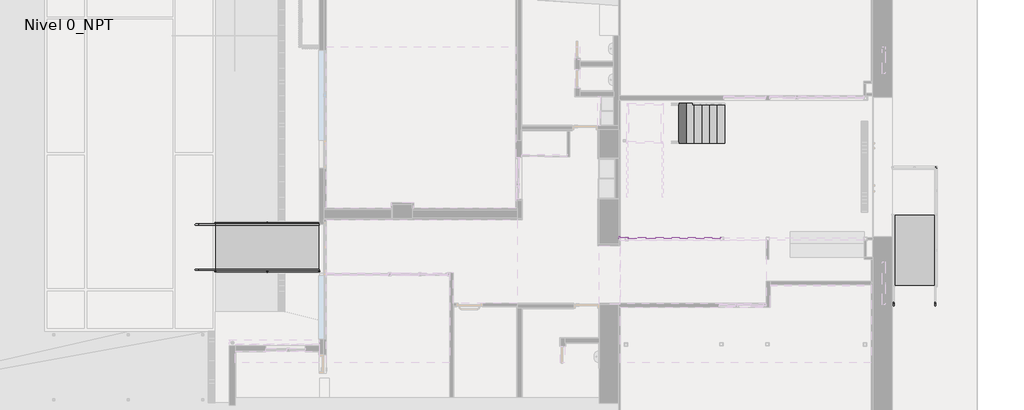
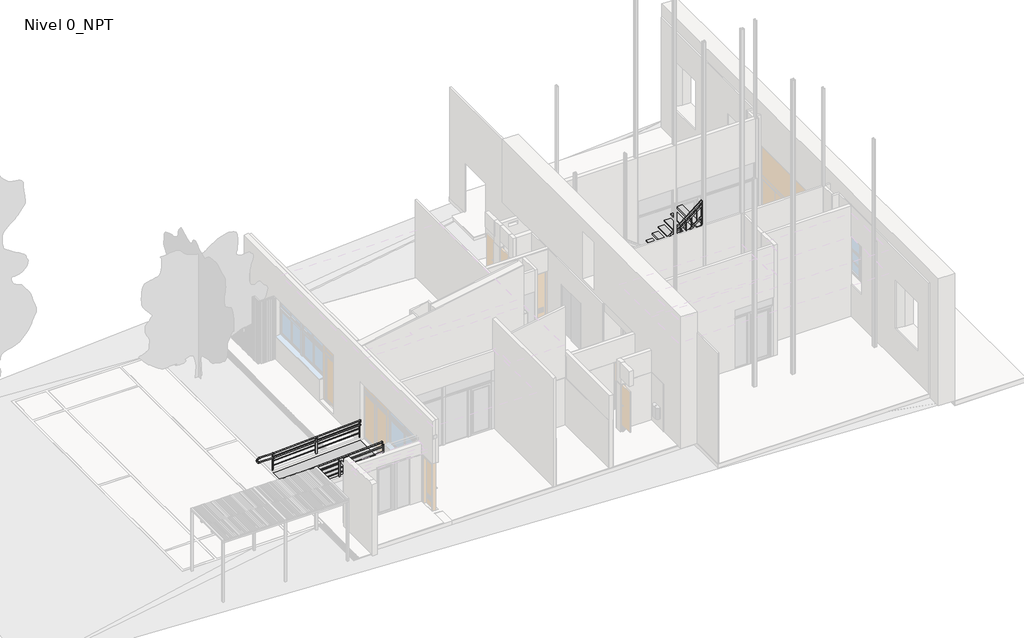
# One storey, part 8 of 10: 9 proxies, 3 railings, 2 ramps, 1 stair flight.
"""IFC4 building model written with IfcOpenShell, lengths in millimetres."""

from ifc_helpers import new_model, si_unit, point, frame, frame_2d, origin, place, context, project, spatial, polyline, circle_curve, ellipse_curve, trimmed, segment, composite_curve, outline, extrude, faceted_brep, transform, mapped, element, save
from ifc_brep_helpers import plane_surface, cylinder_surface, advanced_brep
from components import building_element_proxy_9133cc3a, building_element_proxy_c94f48aa, building_element_proxy_eb7c9d0a, building_element_proxy_42baf547, building_element_proxy_b1144b5f, m_soporte_metal_circular_m_soporte_metal_circular_cf76aa7a, rampa_1_a4d67915, rampa_1_870051f9, stair_flight_c2d89a96

model = new_model("IFC4")

# Units and contexts
model_context = context("Model", 3, world=origin())
ifc_project = project(units=[si_unit("LENGTHUNIT", "METRE", prefix="MILLI")], contexts=[model_context])

# Site, building, storey
site = spatial("IfcSite", under=ifc_project)
building = spatial("IfcBuilding", under=site)
storey = spatial("IfcBuildingStorey", under=building, Name="Nivel 0_NPT", Elevation=0.0)

# Proxies
placement = place(None, origin())
building_element_proxy_shape = building_element_proxy_9133cc3a(model_context)
element("IfcBuildingElementProxy", 1, Name="Terminaciones 1 : Terminaciones 1", ObjectType="Terminaciones 1 : Terminaciones 1", at=placement, inside=storey, context=model_context, shape_type="MappedRepresentation", body=[
    mapped(building_element_proxy_shape, transform((0.0, 0.0, 0.0), x_axis=(1.0, 0.0, 0.0), y_axis=(0.0, 1.0, 0.0), z_axis=(0.0, 0.0, 1.0))),
])
building_element_proxy_2_shape = building_element_proxy_c94f48aa(model_context)
element("IfcBuildingElementProxy", 2, Name="Terminaciones 2 : Terminaciones 1", ObjectType="Terminaciones 2 : Terminaciones 1", at=placement, inside=storey, context=model_context, shape_type="MappedRepresentation", body=[
    mapped(building_element_proxy_2_shape, transform((0.0, 0.0, 0.0), x_axis=(1.0, 0.0, 0.0), y_axis=(0.0, 1.0, 0.0), z_axis=(0.0, 0.0, 1.0))),
])
building_element_proxy_3_shape = building_element_proxy_eb7c9d0a(model_context)
element("IfcBuildingElementProxy", 3, Name="Terminaciones 3 : Terminaciones 1", ObjectType="Terminaciones 3 : Terminaciones 1", at=placement, inside=storey, context=model_context, shape_type="MappedRepresentation", body=[
    mapped(building_element_proxy_3_shape, transform((0.0, 0.0, 0.0), x_axis=(1.0, 0.0, 0.0), y_axis=(0.0, 1.0, 0.0), z_axis=(0.0, 0.0, 1.0))),
])
building_element_proxy_4_shape = building_element_proxy_42baf547(model_context)
element("IfcBuildingElementProxy", 4, Name="Terminaciones 4 : Terminaciones 1", ObjectType="Terminaciones 4 : Terminaciones 1", at=placement, inside=storey, context=model_context, shape_type="MappedRepresentation", body=[
    mapped(building_element_proxy_4_shape, transform((0.0, 0.0, 0.0), x_axis=(1.0, 0.0, 0.0), y_axis=(0.0, 1.0, 0.0), z_axis=(0.0, 0.0, 1.0))),
])
building_element_proxy_5_shape = building_element_proxy_b1144b5f(model_context)
element("IfcBuildingElementProxy", 5, Name="Soportes 1 : Soportes 1", ObjectType="Soportes 1 : Soportes 1", at=placement, inside=storey, context=model_context, shape_type="MappedRepresentation", body=[
    mapped(building_element_proxy_5_shape, transform((0.0, 0.0, 0.0), x_axis=(1.0, 0.0, 0.0), y_axis=(0.0, 1.0, 0.0), z_axis=(0.0, 0.0, 1.0))),
])
m_soporte_metal_circular_m_soporte_metal_circular_shape = m_soporte_metal_circular_m_soporte_metal_circular_cf76aa7a(model_context)
element("IfcBuildingElementProxy", 6, Name="M_Soporte - Metal - Circular : M_Soporte - Metal - Circular", ObjectType="M_Soporte - Metal - Circular : M_Soporte - Metal - Circular", at=placement, inside=storey, context=model_context, shape_type="MappedRepresentation", body=[
    mapped(m_soporte_metal_circular_m_soporte_metal_circular_shape, transform((-6314.5710775, 398.6072273, 764.9788093), x_axis=(-1.0, 0.0, 0.0), y_axis=(0.0, -1.0, 0.0), z_axis=(0.0, 0.0, 1.0))),
])
element("IfcBuildingElementProxy", 7, Name="M_Soporte - Metal - Circular : M_Soporte - Metal - Circular", ObjectType="M_Soporte - Metal - Circular : M_Soporte - Metal - Circular", at=placement, inside=storey, context=model_context, shape_type="MappedRepresentation", body=[
    mapped(m_soporte_metal_circular_m_soporte_metal_circular_shape, transform((-4488.7901532, 398.6072273, 854.8227127), x_axis=(-1.0, 0.0, 0.0), y_axis=(0.0, -1.0, 0.0), z_axis=(0.0, 0.0, 1.0))),
])
element("IfcBuildingElementProxy", 8, Name="M_Soporte - Metal - Circular : M_Soporte - Metal - Circular", ObjectType="M_Soporte - Metal - Circular : M_Soporte - Metal - Circular", at=placement, inside=storey, context=model_context, shape_type="MappedRepresentation", body=[
    mapped(m_soporte_metal_circular_m_soporte_metal_circular_shape, transform((-6314.5710775, 1988.6072273, 764.9788093), x_axis=(1.0, 0.0, 0.0), y_axis=(0.0, 1.0, 0.0), z_axis=(0.0, 0.0, 1.0))),
])
element("IfcBuildingElementProxy", 9, Name="M_Soporte - Metal - Circular : M_Soporte - Metal - Circular", ObjectType="M_Soporte - Metal - Circular : M_Soporte - Metal - Circular", at=placement, inside=storey, context=model_context, shape_type="MappedRepresentation", body=[
    mapped(m_soporte_metal_circular_m_soporte_metal_circular_shape, transform((-4488.7901532, 1988.6072273, 854.8227127), x_axis=(1.0, 0.0, 0.0), y_axis=(0.0, 1.0, 0.0), z_axis=(0.0, 0.0, 1.0))),
])

# Railings
element("IfcRailing", 10, ObjectType="ARQ-BA-IN-Hi-Escalera", at=placement, inside=storey, context=model_context, shape_type="SolidModel", body=[
    faceted_brep([(6085.2126262, 1560.9008809, 4189.6), (6085.2126262, 1560.9008809, 4139.6), (6035.2126262, 1560.9008809, 4139.6), (6035.2126262, 1560.9008809, 4189.6), (6085.2126262, 1546.742606, 4189.6), (6085.2126262, 1546.742606, 4139.6), (6035.2126262, 1496.742606, 4139.6), (6035.2126262, 1496.742606, 4189.6), (7314.6404221, 1546.742606, 4189.6), (7332.3307325, 1546.742606, 4139.6), (7332.3307325, 1496.742606, 4139.6), (7314.6404221, 1496.742606, 4189.6), (9602.8126262, 1546.742606, 6040.4229128), (9602.8126262, 1496.742606, 6040.4229128), (9602.8126262, 1496.742606, 5976.1138359), (9602.8126262, 1546.742606, 5976.1138359)], [[[0, 1, 2, 3]], [[1, 0, 4, 5]], [[2, 1, 5, 6]], [[3, 2, 6, 7]], [[0, 3, 7, 4]], [[5, 4, 8, 9]], [[6, 5, 9, 10]], [[7, 6, 10, 11]], [[4, 7, 11, 8]], [[12, 13, 14, 15]], [[9, 8, 12, 15]], [[10, 9, 15, 14]], [[11, 10, 14, 13]], [[8, 11, 13, 12]]]),
    faceted_brep([(6035.2126262, 1560.9008809, 3989.6), (6085.2126262, 1560.9008809, 3989.6), (6085.2126262, 1560.9008809, 3939.6), (6035.2126262, 1560.9008809, 3939.6), (6035.2126262, 1496.742606, 3989.6), (6035.2126262, 1496.742606, 3939.6), (6085.2126262, 1546.742606, 3939.6), (6085.2126262, 1546.742606, 3989.6)], [[[0, 1, 2, 3]], [[4, 5, 6, 7]], [[1, 0, 4, 7]], [[2, 1, 7, 6]], [[3, 2, 6, 5]], [[0, 3, 5, 4]]]),
    faceted_brep([(6035.2126262, 1496.742606, 3989.6), (6085.2126262, 1546.742606, 3989.6), (6085.2126262, 1546.742606, 3939.6), (6035.2126262, 1496.742606, 3939.6), (7314.6404221, 1496.742606, 3989.6), (7314.6404221, 1546.742606, 3989.6), (7332.3307325, 1546.742606, 3939.6), (7332.3307325, 1496.742606, 3939.6), (9602.8126262, 1496.742606, 5840.4229128), (9602.8126262, 1496.742606, 5776.1138359), (9602.8126262, 1546.742606, 5776.1138359), (9602.8126262, 1546.742606, 5840.4229128)], [[[0, 1, 2, 3]], [[1, 0, 4, 5]], [[2, 1, 5, 6]], [[3, 2, 6, 7]], [[0, 3, 7, 4]], [[8, 9, 10, 11]], [[5, 4, 8, 11]], [[6, 5, 11, 10]], [[7, 6, 10, 9]], [[4, 7, 9, 8]]]),
    faceted_brep([(6035.2126262, 1560.9008809, 3489.6), (6085.2126262, 1560.9008809, 3489.6), (6085.2126262, 1560.9008809, 3439.6), (6035.2126262, 1560.9008809, 3439.6), (6035.2126262, 1496.742606, 3489.6), (6035.2126262, 1496.742606, 3439.6), (6085.2126262, 1546.742606, 3439.6), (6085.2126262, 1546.742606, 3489.6)], [[[0, 1, 2, 3]], [[4, 5, 6, 7]], [[1, 0, 4, 7]], [[2, 1, 7, 6]], [[3, 2, 6, 5]], [[0, 3, 5, 4]]]),
    faceted_brep([(6035.2126262, 1496.742606, 3489.6), (6085.2126262, 1546.742606, 3489.6), (6085.2126262, 1546.742606, 3439.6), (6035.2126262, 1496.742606, 3439.6), (7314.6404221, 1496.742606, 3489.6), (7314.6404221, 1546.742606, 3489.6), (7332.3307325, 1546.742606, 3439.6), (7332.3307325, 1496.742606, 3439.6), (9602.8126262, 1496.742606, 5340.4229128), (9602.8126262, 1496.742606, 5276.1138359), (9602.8126262, 1546.742606, 5276.1138359), (9602.8126262, 1546.742606, 5340.4229128)], [[[0, 1, 2, 3]], [[1, 0, 4, 5]], [[2, 1, 5, 6]], [[3, 2, 6, 7]], [[0, 3, 7, 4]], [[8, 9, 10, 11]], [[5, 4, 8, 11]], [[6, 5, 11, 10]], [[7, 6, 10, 9]], [[4, 7, 9, 8]]]),
    advanced_brep(
    [(9381.4001262, 1514.242606, 5611.3300423), (9381.4001262, 1514.242606, 5161.3300423), (9381.4001262, 1529.242606, 5161.3300423), (9381.4001262, 1529.242606, 5611.3300423)],
    [
        (0, 1),
        (1, 2, ellipse_curve(frame((9381.4001262, 1521.742606, 5161.3300423), z_axis=(-0.6288888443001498, 0.0, 0.7774952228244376), x_axis=(0.7774952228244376, 0.0, 0.6288888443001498)), 9.6463615, 7.5)),
        (2, 3),
        (3, 0, ellipse_curve(frame((9381.4001262, 1521.742606, 5611.3300423), z_axis=(0.6288888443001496, 0.0, -0.777495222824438), x_axis=(0.7774952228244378, 0.0, 0.6288888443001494)), 9.6463615, 7.5)),
        (0, 3, ellipse_curve(frame((9381.4001262, 1521.742606, 5611.3300423), z_axis=(0.6288888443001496, 0.0, -0.777495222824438), x_axis=(0.7774952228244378, 0.0, 0.6288888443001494)), 9.6463615, 7.5)),
        (2, 1, ellipse_curve(frame((9381.4001262, 1521.742606, 5161.3300423), z_axis=(-0.6288888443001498, 0.0, 0.7774952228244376), x_axis=(0.7774952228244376, 0.0, 0.6288888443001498)), 9.6463615, 7.5)),
    ],
    [
        cylinder_surface(frame((9381.4001262, 1521.742606, 5061.3300423), z_axis=(0.0, 0.0, 1.0), x_axis=(0.0, 1.0, 0.0)), 7.5),
        plane_surface(frame((9396.4001262, 1536.742606, 5623.4630206), z_axis=(-0.6288888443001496, 0.0, 0.777495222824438), x_axis=(0.0, -1.0, 0.0))),
        plane_surface(frame((9366.4001262, 1536.742606, 5149.197064), z_axis=(0.6288888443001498, 0.0, -0.7774952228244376), x_axis=(0.0, -1.0, 0.0))),
    ],
    [
        (0, [[1, 2, 3, 4]]),
        (0, [[-1, 5, -3, 6]]),
        (1, [[-4, -5]]),
        (2, [[-2, -6]]),
    ],
),
    advanced_brep(
    [(9159.9876262, 1514.242606, 5432.2371718), (9159.9876262, 1514.242606, 4982.2371718), (9159.9876262, 1529.242606, 4982.2371718), (9159.9876262, 1529.242606, 5432.2371718)],
    [
        (0, 1),
        (1, 2, ellipse_curve(frame((9159.9876262, 1521.742606, 4982.2371718), z_axis=(-0.6288888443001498, 0.0, 0.7774952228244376), x_axis=(0.7774952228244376, 0.0, 0.6288888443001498)), 9.6463615, 7.5)),
        (2, 3),
        (3, 0, ellipse_curve(frame((9159.9876262, 1521.742606, 5432.2371718), z_axis=(0.6288888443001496, 0.0, -0.777495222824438), x_axis=(0.7774952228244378, 0.0, 0.6288888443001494)), 9.6463615, 7.5)),
        (0, 3, ellipse_curve(frame((9159.9876262, 1521.742606, 5432.2371718), z_axis=(0.6288888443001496, 0.0, -0.777495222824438), x_axis=(0.7774952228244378, 0.0, 0.6288888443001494)), 9.6463615, 7.5)),
        (2, 1, ellipse_curve(frame((9159.9876262, 1521.742606, 4982.2371718), z_axis=(-0.6288888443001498, 0.0, 0.7774952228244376), x_axis=(0.7774952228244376, 0.0, 0.6288888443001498)), 9.6463615, 7.5)),
    ],
    [
        cylinder_surface(frame((9159.9876262, 1521.742606, 4882.2371718), z_axis=(0.0, 0.0, 1.0), x_axis=(0.0, 1.0, 0.0)), 7.5),
        plane_surface(frame((9174.9876262, 1536.742606, 5444.3701501), z_axis=(-0.6288888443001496, 0.0, 0.777495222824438), x_axis=(0.0, -1.0, 0.0))),
        plane_surface(frame((9144.9876262, 1536.742606, 4970.1041935), z_axis=(0.6288888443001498, 0.0, -0.7774952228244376), x_axis=(0.0, -1.0, 0.0))),
    ],
    [
        (0, [[1, 2, 3, 4]]),
        (0, [[-1, 5, -3, 6]]),
        (1, [[-4, -5]]),
        (2, [[-2, -6]]),
    ],
),
    advanced_brep(
    [(8938.5751262, 1514.242606, 5253.1443013), (8938.5751262, 1514.242606, 4803.1443013), (8938.5751262, 1529.242606, 4803.1443013), (8938.5751262, 1529.242606, 5253.1443013)],
    [
        (0, 1),
        (1, 2, ellipse_curve(frame((8938.5751262, 1521.742606, 4803.1443013), z_axis=(-0.6288888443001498, 0.0, 0.7774952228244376), x_axis=(0.7774952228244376, 0.0, 0.6288888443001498)), 9.6463615, 7.5)),
        (2, 3),
        (3, 0, ellipse_curve(frame((8938.5751262, 1521.742606, 5253.1443013), z_axis=(0.6288888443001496, 0.0, -0.777495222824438), x_axis=(0.7774952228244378, 0.0, 0.6288888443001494)), 9.6463615, 7.5)),
        (0, 3, ellipse_curve(frame((8938.5751262, 1521.742606, 5253.1443013), z_axis=(0.6288888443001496, 0.0, -0.777495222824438), x_axis=(0.7774952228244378, 0.0, 0.6288888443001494)), 9.6463615, 7.5)),
        (2, 1, ellipse_curve(frame((8938.5751262, 1521.742606, 4803.1443013), z_axis=(-0.6288888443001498, 0.0, 0.7774952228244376), x_axis=(0.7774952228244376, 0.0, 0.6288888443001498)), 9.6463615, 7.5)),
    ],
    [
        cylinder_surface(frame((8938.5751262, 1521.742606, 4703.1443013), z_axis=(0.0, 0.0, 1.0), x_axis=(0.0, 1.0, 0.0)), 7.5),
        plane_surface(frame((8953.5751262, 1536.742606, 5265.2772796), z_axis=(-0.6288888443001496, 0.0, 0.777495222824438), x_axis=(0.0, -1.0, 0.0))),
        plane_surface(frame((8923.5751262, 1536.742606, 4791.011323), z_axis=(0.6288888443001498, 0.0, -0.7774952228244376), x_axis=(0.0, -1.0, 0.0))),
    ],
    [
        (0, [[1, 2, 3, 4]]),
        (0, [[-1, 5, -3, 6]]),
        (1, [[-4, -5]]),
        (2, [[-2, -6]]),
    ],
),
    advanced_brep(
    [(8717.1626262, 1514.242606, 5074.0514308), (8717.1626262, 1514.242606, 4624.0514308), (8717.1626262, 1529.242606, 4624.0514308), (8717.1626262, 1529.242606, 5074.0514308)],
    [
        (0, 1),
        (1, 2, ellipse_curve(frame((8717.1626262, 1521.742606, 4624.0514308), z_axis=(-0.6288888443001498, 0.0, 0.7774952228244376), x_axis=(0.7774952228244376, 0.0, 0.6288888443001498)), 9.6463615, 7.5)),
        (2, 3),
        (3, 0, ellipse_curve(frame((8717.1626262, 1521.742606, 5074.0514308), z_axis=(0.6288888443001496, 0.0, -0.777495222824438), x_axis=(0.7774952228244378, 0.0, 0.6288888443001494)), 9.6463615, 7.5)),
        (0, 3, ellipse_curve(frame((8717.1626262, 1521.742606, 5074.0514308), z_axis=(0.6288888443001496, 0.0, -0.777495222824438), x_axis=(0.7774952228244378, 0.0, 0.6288888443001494)), 9.6463615, 7.5)),
        (2, 1, ellipse_curve(frame((8717.1626262, 1521.742606, 4624.0514308), z_axis=(-0.6288888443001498, 0.0, 0.7774952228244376), x_axis=(0.7774952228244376, 0.0, 0.6288888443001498)), 9.6463615, 7.5)),
    ],
    [
        cylinder_surface(frame((8717.1626262, 1521.742606, 4524.0514308), z_axis=(0.0, 0.0, 1.0), x_axis=(0.0, 1.0, 0.0)), 7.5),
        plane_surface(frame((8732.1626262, 1536.742606, 5086.1844091), z_axis=(-0.6288888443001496, 0.0, 0.777495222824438), x_axis=(0.0, -1.0, 0.0))),
        plane_surface(frame((8702.1626262, 1536.742606, 4611.9184525), z_axis=(0.6288888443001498, 0.0, -0.7774952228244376), x_axis=(0.0, -1.0, 0.0))),
    ],
    [
        (0, [[1, 2, 3, 4]]),
        (0, [[-1, 5, -3, 6]]),
        (1, [[-4, -5]]),
        (2, [[-2, -6]]),
    ],
),
    advanced_brep(
    [(8495.7501262, 1514.242606, 4894.9585604), (8495.7501262, 1514.242606, 4444.9585604), (8495.7501262, 1529.242606, 4444.9585604), (8495.7501262, 1529.242606, 4894.9585604)],
    [
        (0, 1),
        (1, 2, ellipse_curve(frame((8495.7501262, 1521.742606, 4444.9585604), z_axis=(-0.6288888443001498, 0.0, 0.7774952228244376), x_axis=(0.7774952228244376, 0.0, 0.6288888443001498)), 9.6463615, 7.5)),
        (2, 3),
        (3, 0, ellipse_curve(frame((8495.7501262, 1521.742606, 4894.9585604), z_axis=(0.6288888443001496, 0.0, -0.777495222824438), x_axis=(0.7774952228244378, 0.0, 0.6288888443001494)), 9.6463615, 7.5)),
        (0, 3, ellipse_curve(frame((8495.7501262, 1521.742606, 4894.9585604), z_axis=(0.6288888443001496, 0.0, -0.777495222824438), x_axis=(0.7774952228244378, 0.0, 0.6288888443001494)), 9.6463615, 7.5)),
        (2, 1, ellipse_curve(frame((8495.7501262, 1521.742606, 4444.9585604), z_axis=(-0.6288888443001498, 0.0, 0.7774952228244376), x_axis=(0.7774952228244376, 0.0, 0.6288888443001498)), 9.6463615, 7.5)),
    ],
    [
        cylinder_surface(frame((8495.7501262, 1521.742606, 4344.9585604), z_axis=(0.0, 0.0, 1.0), x_axis=(0.0, 1.0, 0.0)), 7.5),
        plane_surface(frame((8510.7501262, 1536.742606, 4907.0915387), z_axis=(-0.6288888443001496, 0.0, 0.777495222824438), x_axis=(0.0, -1.0, 0.0))),
        plane_surface(frame((8480.7501262, 1536.742606, 4432.8255821), z_axis=(0.6288888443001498, 0.0, -0.7774952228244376), x_axis=(0.0, -1.0, 0.0))),
    ],
    [
        (0, [[1, 2, 3, 4]]),
        (0, [[-1, 5, -3, 6]]),
        (1, [[-4, -5]]),
        (2, [[-2, -6]]),
    ],
),
    advanced_brep(
    [(8274.3376262, 1514.242606, 4715.8656899), (8274.3376262, 1514.242606, 4265.8656899), (8274.3376262, 1529.242606, 4265.8656899), (8274.3376262, 1529.242606, 4715.8656899)],
    [
        (0, 1),
        (1, 2, ellipse_curve(frame((8274.3376262, 1521.742606, 4265.8656899), z_axis=(-0.6288888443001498, 0.0, 0.7774952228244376), x_axis=(0.7774952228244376, 0.0, 0.6288888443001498)), 9.6463615, 7.5)),
        (2, 3),
        (3, 0, ellipse_curve(frame((8274.3376262, 1521.742606, 4715.8656899), z_axis=(0.6288888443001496, 0.0, -0.777495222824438), x_axis=(0.7774952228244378, 0.0, 0.6288888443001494)), 9.6463615, 7.5)),
        (0, 3, ellipse_curve(frame((8274.3376262, 1521.742606, 4715.8656899), z_axis=(0.6288888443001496, 0.0, -0.777495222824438), x_axis=(0.7774952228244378, 0.0, 0.6288888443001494)), 9.6463615, 7.5)),
        (2, 1, ellipse_curve(frame((8274.3376262, 1521.742606, 4265.8656899), z_axis=(-0.6288888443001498, 0.0, 0.7774952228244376), x_axis=(0.7774952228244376, 0.0, 0.6288888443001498)), 9.6463615, 7.5)),
    ],
    [
        cylinder_surface(frame((8274.3376262, 1521.742606, 4165.8656899), z_axis=(0.0, 0.0, 1.0), x_axis=(0.0, 1.0, 0.0)), 7.5),
        plane_surface(frame((8289.3376262, 1536.742606, 4727.9986682), z_axis=(-0.6288888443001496, 0.0, 0.777495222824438), x_axis=(0.0, -1.0, 0.0))),
        plane_surface(frame((8259.3376262, 1536.742606, 4253.7327116), z_axis=(0.6288888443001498, 0.0, -0.7774952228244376), x_axis=(0.0, -1.0, 0.0))),
    ],
    [
        (0, [[1, 2, 3, 4]]),
        (0, [[-1, 5, -3, 6]]),
        (1, [[-4, -5]]),
        (2, [[-2, -6]]),
    ],
),
    advanced_brep(
    [(8052.9251262, 1514.242606, 4536.7728194), (8052.9251262, 1514.242606, 4086.7728194), (8052.9251262, 1529.242606, 4086.7728194), (8052.9251262, 1529.242606, 4536.7728194)],
    [
        (0, 1),
        (1, 2, ellipse_curve(frame((8052.9251262, 1521.742606, 4086.7728194), z_axis=(-0.6288888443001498, 0.0, 0.7774952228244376), x_axis=(0.7774952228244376, 0.0, 0.6288888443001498)), 9.6463615, 7.5)),
        (2, 3),
        (3, 0, ellipse_curve(frame((8052.9251262, 1521.742606, 4536.7728194), z_axis=(0.6288888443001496, 0.0, -0.777495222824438), x_axis=(0.7774952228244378, 0.0, 0.6288888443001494)), 9.6463615, 7.5)),
        (0, 3, ellipse_curve(frame((8052.9251262, 1521.742606, 4536.7728194), z_axis=(0.6288888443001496, 0.0, -0.777495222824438), x_axis=(0.7774952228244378, 0.0, 0.6288888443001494)), 9.6463615, 7.5)),
        (2, 1, ellipse_curve(frame((8052.9251262, 1521.742606, 4086.7728194), z_axis=(-0.6288888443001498, 0.0, 0.7774952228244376), x_axis=(0.7774952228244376, 0.0, 0.6288888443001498)), 9.6463615, 7.5)),
    ],
    [
        cylinder_surface(frame((8052.9251262, 1521.742606, 3986.7728194), z_axis=(0.0, 0.0, 1.0), x_axis=(0.0, 1.0, 0.0)), 7.5),
        plane_surface(frame((8067.9251262, 1536.742606, 4548.9057977), z_axis=(-0.6288888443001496, 0.0, 0.777495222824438), x_axis=(0.0, -1.0, 0.0))),
        plane_surface(frame((8037.9251262, 1536.742606, 4074.6398411), z_axis=(0.6288888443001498, 0.0, -0.7774952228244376), x_axis=(0.0, -1.0, 0.0))),
    ],
    [
        (0, [[1, 2, 3, 4]]),
        (0, [[-1, 5, -3, 6]]),
        (1, [[-4, -5]]),
        (2, [[-2, -6]]),
    ],
),
    advanced_brep(
    [(7831.5126262, 1514.242606, 4357.6799489), (7831.5126262, 1514.242606, 3907.6799489), (7831.5126262, 1529.242606, 3907.6799489), (7831.5126262, 1529.242606, 4357.6799489)],
    [
        (0, 1),
        (1, 2, ellipse_curve(frame((7831.5126262, 1521.742606, 3907.6799489), z_axis=(-0.6288888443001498, 0.0, 0.7774952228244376), x_axis=(0.7774952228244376, 0.0, 0.6288888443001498)), 9.6463615, 7.5)),
        (2, 3),
        (3, 0, ellipse_curve(frame((7831.5126262, 1521.742606, 4357.6799489), z_axis=(0.6288888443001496, 0.0, -0.777495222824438), x_axis=(0.7774952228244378, 0.0, 0.6288888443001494)), 9.6463615, 7.5)),
        (0, 3, ellipse_curve(frame((7831.5126262, 1521.742606, 4357.6799489), z_axis=(0.6288888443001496, 0.0, -0.777495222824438), x_axis=(0.7774952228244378, 0.0, 0.6288888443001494)), 9.6463615, 7.5)),
        (2, 1, ellipse_curve(frame((7831.5126262, 1521.742606, 3907.6799489), z_axis=(-0.6288888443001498, 0.0, 0.7774952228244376), x_axis=(0.7774952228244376, 0.0, 0.6288888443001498)), 9.6463615, 7.5)),
    ],
    [
        cylinder_surface(frame((7831.5126262, 1521.742606, 3807.6799489), z_axis=(0.0, 0.0, 1.0), x_axis=(0.0, 1.0, 0.0)), 7.5),
        plane_surface(frame((7846.5126262, 1536.742606, 4369.8129272), z_axis=(-0.6288888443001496, 0.0, 0.777495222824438), x_axis=(0.0, -1.0, 0.0))),
        plane_surface(frame((7816.5126262, 1536.742606, 3895.5469706), z_axis=(0.6288888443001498, 0.0, -0.7774952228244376), x_axis=(0.0, -1.0, 0.0))),
    ],
    [
        (0, [[1, 2, 3, 4]]),
        (0, [[-1, 5, -3, 6]]),
        (1, [[-4, -5]]),
        (2, [[-2, -6]]),
    ],
),
    advanced_brep(
    [(7831.5126262, 1501.742606, 4543.3708721), (7831.5126262, 1501.742606, 4407.6799489), (7831.5126262, 1541.742606, 4407.6799489), (7831.5126262, 1541.742606, 4543.3708721)],
    [
        (0, 1),
        (1, 2, ellipse_curve(frame((7831.5126262, 1521.742606, 4407.6799489), z_axis=(-0.62888884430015, 0.0, 0.7774952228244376), x_axis=(0.7774952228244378, 0.0, 0.6288888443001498)), 25.7236307, 20.0)),
        (2, 3),
        (3, 0, ellipse_curve(frame((7831.5126262, 1521.742606, 4543.3708721), z_axis=(0.6288888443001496, 0.0, -0.7774952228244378), x_axis=(0.7774952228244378, 0.0, 0.6288888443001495)), 25.7236307, 20.0)),
        (0, 3, ellipse_curve(frame((7831.5126262, 1521.742606, 4543.3708721), z_axis=(0.6288888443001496, 0.0, -0.7774952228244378), x_axis=(0.7774952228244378, 0.0, 0.6288888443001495)), 25.7236307, 20.0)),
        (2, 1, ellipse_curve(frame((7831.5126262, 1521.742606, 4407.6799489), z_axis=(-0.62888884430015, 0.0, 0.7774952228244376), x_axis=(0.7774952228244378, 0.0, 0.6288888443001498)), 25.7236307, 20.0)),
    ],
    [
        cylinder_surface(frame((7831.5126262, 1521.742606, 4307.6799489), z_axis=(0.0, 0.0, 1.0), x_axis=(0.0, 1.0, 0.0)), 20.0),
        plane_surface(frame((7871.5126262, 1561.742606, 4575.7254809), z_axis=(-0.6288888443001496, 0.0, 0.7774952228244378), x_axis=(0.0, -1.0, 0.0))),
        plane_surface(frame((7791.5126262, 1561.742606, 4375.3253401), z_axis=(0.62888884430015, 0.0, -0.7774952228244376), x_axis=(0.0, -1.0, 0.0))),
    ],
    [
        (0, [[1, 2, 3, 4]]),
        (0, [[-1, 5, -3, 6]]),
        (1, [[-4, -5]]),
        (2, [[-2, -6]]),
    ],
),
    advanced_brep(
    [(7610.1001262, 1514.242606, 4178.5870785), (7610.1001262, 1514.242606, 3728.5870785), (7610.1001262, 1529.242606, 3728.5870785), (7610.1001262, 1529.242606, 4178.5870785)],
    [
        (0, 1),
        (1, 2, ellipse_curve(frame((7610.1001262, 1521.742606, 3728.5870785), z_axis=(-0.6288888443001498, 0.0, 0.7774952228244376), x_axis=(0.7774952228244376, 0.0, 0.6288888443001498)), 9.6463615, 7.5)),
        (2, 3),
        (3, 0, ellipse_curve(frame((7610.1001262, 1521.742606, 4178.5870785), z_axis=(0.6288888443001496, 0.0, -0.777495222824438), x_axis=(0.7774952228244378, 0.0, 0.6288888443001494)), 9.6463615, 7.5)),
        (0, 3, ellipse_curve(frame((7610.1001262, 1521.742606, 4178.5870785), z_axis=(0.6288888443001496, 0.0, -0.777495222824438), x_axis=(0.7774952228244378, 0.0, 0.6288888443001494)), 9.6463615, 7.5)),
        (2, 1, ellipse_curve(frame((7610.1001262, 1521.742606, 3728.5870785), z_axis=(-0.6288888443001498, 0.0, 0.7774952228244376), x_axis=(0.7774952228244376, 0.0, 0.6288888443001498)), 9.6463615, 7.5)),
    ],
    [
        cylinder_surface(frame((7610.1001262, 1521.742606, 3628.5870785), z_axis=(0.0, 0.0, 1.0), x_axis=(0.0, 1.0, 0.0)), 7.5),
        plane_surface(frame((7625.1001262, 1536.742606, 4190.7200567), z_axis=(-0.6288888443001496, 0.0, 0.777495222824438), x_axis=(0.0, -1.0, 0.0))),
        plane_surface(frame((7595.1001262, 1536.742606, 3716.4541002), z_axis=(0.6288888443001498, 0.0, -0.7774952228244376), x_axis=(0.0, -1.0, 0.0))),
    ],
    [
        (0, [[1, 2, 3, 4]]),
        (0, [[-1, 5, -3, 6]]),
        (1, [[-4, -5]]),
        (2, [[-2, -6]]),
    ],
),
    advanced_brep(
    [(7388.6876262, 1514.242606, 3999.494208), (7388.6876262, 1514.242606, 3549.494208), (7388.6876262, 1529.242606, 3549.494208), (7388.6876262, 1529.242606, 3999.494208)],
    [
        (0, 1),
        (1, 2, ellipse_curve(frame((7388.6876262, 1521.742606, 3549.494208), z_axis=(-0.6288888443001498, 0.0, 0.7774952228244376), x_axis=(0.7774952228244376, 0.0, 0.6288888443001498)), 9.6463615, 7.5)),
        (2, 3),
        (3, 0, ellipse_curve(frame((7388.6876262, 1521.742606, 3999.494208), z_axis=(0.6288888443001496, 0.0, -0.777495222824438), x_axis=(0.7774952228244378, 0.0, 0.6288888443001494)), 9.6463615, 7.5)),
        (0, 3, ellipse_curve(frame((7388.6876262, 1521.742606, 3999.494208), z_axis=(0.6288888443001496, 0.0, -0.777495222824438), x_axis=(0.7774952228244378, 0.0, 0.6288888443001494)), 9.6463615, 7.5)),
        (2, 1, ellipse_curve(frame((7388.6876262, 1521.742606, 3549.494208), z_axis=(-0.6288888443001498, 0.0, 0.7774952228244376), x_axis=(0.7774952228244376, 0.0, 0.6288888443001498)), 9.6463615, 7.5)),
    ],
    [
        cylinder_surface(frame((7388.6876262, 1521.742606, 3449.494208), z_axis=(0.0, 0.0, 1.0), x_axis=(0.0, 1.0, 0.0)), 7.5),
        plane_surface(frame((7403.6876262, 1536.742606, 4011.6271863), z_axis=(-0.6288888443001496, 0.0, 0.777495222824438), x_axis=(0.0, -1.0, 0.0))),
        plane_surface(frame((7373.6876262, 1536.742606, 3537.3612297), z_axis=(0.6288888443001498, 0.0, -0.7774952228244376), x_axis=(0.0, -1.0, 0.0))),
    ],
    [
        (0, [[1, 2, 3, 4]]),
        (0, [[-1, 5, -3, 6]]),
        (1, [[-4, -5]]),
        (2, [[-2, -6]]),
    ],
),
    extrude(outline(composite_curve([segment(trimmed(circle_curve(frame_2d((7167.2751262, 1521.742606)), 7.5), [point((7167.2751262, 1529.242606))], [point((7167.2751262, 1514.242606))], False, "CARTESIAN"), True, "CONTINUOUS"), segment(trimmed(circle_curve(frame_2d((7167.2751262, 1521.742606)), 7.5), [point((7167.2751262, 1514.242606))], [point((7167.2751262, 1529.242606))], False, "CARTESIAN"), True, "CONTINUOUS")], self_intersect=False)), frame((0.0, 0.0, 3489.6), z_axis=(0.0, 0.0, 1.0), x_axis=(1.0, 0.0, 0.0)), (0.0, 0.0, 1.0), 450.0),
    extrude(outline(composite_curve([segment(trimmed(circle_curve(frame_2d((6945.8626262, 1521.742606)), 7.5), [point((6945.8626262, 1529.242606))], [point((6945.8626262, 1514.242606))], False, "CARTESIAN"), True, "CONTINUOUS"), segment(trimmed(circle_curve(frame_2d((6945.8626262, 1521.742606)), 7.5), [point((6945.8626262, 1514.242606))], [point((6945.8626262, 1529.242606))], False, "CARTESIAN"), True, "CONTINUOUS")], self_intersect=False)), frame((0.0, 0.0, 3489.6), z_axis=(0.0, 0.0, 1.0), x_axis=(1.0, 0.0, 0.0)), (0.0, 0.0, 1.0), 450.0),
    extrude(outline(composite_curve([segment(trimmed(circle_curve(frame_2d((6724.4501262, 1521.742606)), 7.5), [point((6724.4501262, 1529.242606))], [point((6724.4501262, 1514.242606))], False, "CARTESIAN"), True, "CONTINUOUS"), segment(trimmed(circle_curve(frame_2d((6724.4501262, 1521.742606)), 7.5), [point((6724.4501262, 1514.242606))], [point((6724.4501262, 1529.242606))], False, "CARTESIAN"), True, "CONTINUOUS")], self_intersect=False)), frame((0.0, 0.0, 3489.6), z_axis=(0.0, 0.0, 1.0), x_axis=(1.0, 0.0, 0.0)), (0.0, 0.0, 1.0), 450.0),
    extrude(outline(composite_curve([segment(trimmed(circle_curve(frame_2d((6503.0376262, 1521.742606)), 7.5), [point((6503.0376262, 1529.242606))], [point((6503.0376262, 1514.242606))], False, "CARTESIAN"), True, "CONTINUOUS"), segment(trimmed(circle_curve(frame_2d((6503.0376262, 1521.742606)), 7.5), [point((6503.0376262, 1514.242606))], [point((6503.0376262, 1529.242606))], False, "CARTESIAN"), True, "CONTINUOUS")], self_intersect=False)), frame((0.0, 0.0, 3489.6), z_axis=(0.0, 0.0, 1.0), x_axis=(1.0, 0.0, 0.0)), (0.0, 0.0, 1.0), 450.0),
    extrude(outline(composite_curve([segment(trimmed(circle_curve(frame_2d((6281.6251262, 1521.742606)), 7.5), [point((6281.6251262, 1529.242606))], [point((6281.6251262, 1514.242606))], False, "CARTESIAN"), True, "CONTINUOUS"), segment(trimmed(circle_curve(frame_2d((6281.6251262, 1521.742606)), 7.5), [point((6281.6251262, 1514.242606))], [point((6281.6251262, 1529.242606))], False, "CARTESIAN"), True, "CONTINUOUS")], self_intersect=False)), frame((0.0, 0.0, 3489.6), z_axis=(0.0, 0.0, 1.0), x_axis=(1.0, 0.0, 0.0)), (0.0, 0.0, 1.0), 450.0),
    extrude(outline(composite_curve([segment(trimmed(circle_curve(frame_2d((6060.2126262, 1521.742606)), 20.0), [point((6080.2126262, 1521.742606))], [point((6040.2126262, 1521.742606))], False, "CARTESIAN"), True, "CONTINUOUS"), segment(trimmed(circle_curve(frame_2d((6060.2126262, 1521.742606)), 20.0), [point((6040.2126262, 1521.742606))], [point((6080.2126262, 1521.742606))], False, "CARTESIAN"), True, "CONTINUOUS")], self_intersect=False)), frame((0.0, 0.0, 3289.6), z_axis=(0.0, 0.0, 1.0), x_axis=(1.0, 0.0, 0.0)), (0.0, 0.0, 1.0), 850.0),
    advanced_brep(
    [(9602.8126262, 1501.742606, 5990.4229128), (9602.8126262, 1501.742606, 4940.4229128), (9602.8126262, 1541.742606, 4940.4229128), (9602.8126262, 1541.742606, 5990.4229128)],
    [
        (0, 1),
        (1, 2, circle_curve(frame((9602.8126262, 1521.742606, 4940.4229128), z_axis=(0.0, 0.0, 1.0), x_axis=(0.0, 1.0, 0.0)), 20.0)),
        (2, 3),
        (3, 0, ellipse_curve(frame((9602.8126262, 1521.742606, 5990.4229128), z_axis=(0.6288888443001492, 0.0, -0.7774952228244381), x_axis=(0.7774952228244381, 0.0, 0.6288888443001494)), 25.7236307, 20.0)),
        (0, 3, ellipse_curve(frame((9602.8126262, 1521.742606, 5990.4229128), z_axis=(0.6288888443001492, 0.0, -0.7774952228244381), x_axis=(0.7774952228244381, 0.0, 0.6288888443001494)), 25.7236307, 20.0)),
        (2, 1, circle_curve(frame((9602.8126262, 1521.742606, 4940.4229128), z_axis=(0.0, 0.0, 1.0), x_axis=(0.0, 1.0, 0.0)), 20.0)),
    ],
    [
        cylinder_surface(frame((9602.8126262, 1521.742606, 4840.4229128), z_axis=(0.0, 0.0, 1.0), x_axis=(0.0, 1.0, 0.0)), 20.0),
        plane_surface(frame((9642.8126262, 1561.742606, 6022.7775215), z_axis=(-0.6288888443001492, 0.0, 0.7774952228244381), x_axis=(0.0, -1.0, 0.0))),
        plane_surface(frame((9562.8126262, 1561.742606, 4940.4229128), z_axis=(0.0, 0.0, -1.0), x_axis=(0.0, -1.0, 0.0))),
    ],
    [
        (0, [[1, 2, 3, 4]]),
        (0, [[-1, 5, -3, 6]]),
        (1, [[-4, -5]]),
        (2, [[-2, -6]]),
    ],
),
    extrude(outline(composite_curve([segment(trimmed(circle_curve(frame_2d((6060.2126262, 1560.9008809)), 20.0), [point((6080.2126262, 1560.9008809))], [point((6040.2126262, 1560.9008809))], False, "CARTESIAN"), True, "CONTINUOUS"), segment(trimmed(circle_curve(frame_2d((6060.2126262, 1560.9008809)), 20.0), [point((6040.2126262, 1560.9008809))], [point((6080.2126262, 1560.9008809))], False, "CARTESIAN"), True, "CONTINUOUS")], self_intersect=False)), frame((0.0, 0.0, 3089.6), z_axis=(0.0, 0.0, 1.0), x_axis=(1.0, 0.0, 0.0)), (0.0, 0.0, 1.0), 1050.0),
])
element("IfcRailing", 11, ObjectType="ARQ-BAR-EX-Hi-Rampa", at=placement, inside=storey, context=model_context, shape_type="SolidModel", body=[
    advanced_brep(
    [(-8723.5949598, 376.1072273, 497.5), (-8723.5949598, 421.1072273, 497.5), (-8142.5402574, 376.1072273, 497.5), (-8142.5402574, 421.1072273, 497.5), (-4485.1873738, 376.1072273, 677.4727749), (-4485.1873738, 421.1072273, 677.4727749)],
    [
        (0, 1, circle_curve(frame((-8723.5949598, 398.6072273, 497.5), z_axis=(-1.0, 0.0, 0.0), x_axis=(0.0, 1.0, 0.0)), 22.5)),
        (1, 0, circle_curve(frame((-8723.5949598, 398.6072273, 497.5), z_axis=(-1.0, 0.0, 0.0), x_axis=(0.0, 1.0, 0.0)), 22.5)),
        (0, 2),
        (2, 3, ellipse_curve(frame((-8142.5402574, 398.6072273, 497.5), z_axis=(-0.9996978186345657, 0.0, -0.024581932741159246), x_axis=(-0.024581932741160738, 0.0, 0.9996978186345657)), 22.5068011, 22.5)),
        (3, 1),
        (3, 2, ellipse_curve(frame((-8142.5402574, 398.6072273, 497.5), z_axis=(-0.9996978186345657, 0.0, -0.024581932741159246), x_axis=(-0.024581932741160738, 0.0, 0.9996978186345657)), 22.5068011, 22.5)),
        (4, 5, ellipse_curve(frame((-4485.1873738, 398.6072273, 677.4727749), z_axis=(1.0, 0.0, 0.0), x_axis=(0.0, 0.0, -1.0)), 22.5272251, 22.5)),
        (5, 4, ellipse_curve(frame((-4485.1873738, 398.6072273, 677.4727749), z_axis=(1.0, 0.0, 0.0), x_axis=(0.0, 0.0, -1.0)), 22.5272251, 22.5)),
        (2, 4),
        (5, 3),
    ],
    [
        plane_surface(frame((-8723.5949598, 398.6072273, 520.0), z_axis=(-1.0, 0.0, 0.0), x_axis=(0.0, 1.0, 0.0))),
        cylinder_surface(frame((-8723.5949598, 398.6072273, 497.5), z_axis=(-1.0, 0.0, 0.0), x_axis=(0.0, 1.0, 0.0)), 22.5),
        plane_surface(frame((-4485.1873738, 398.6072273, 700.0), z_axis=(1.0, 0.0, 0.0), x_axis=(0.0, 1.0, 0.0))),
        cylinder_surface(frame((-8141.9876653, 398.6072273, 497.5271922), z_axis=(-0.9987914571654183, 0.0, -0.04914900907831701), x_axis=(0.0, 1.0, 0.0)), 22.5),
    ],
    [
        (0, [[1, 2]]),
        (1, [[-1, 3, 4, 5]]),
        (1, [[-2, -5, 6, -3]]),
        (2, [[7, 8]]),
        (3, [[-4, 9, -8, 10]]),
        (3, [[-6, -10, -7, -9]]),
    ],
),
    advanced_brep(
    [(-4485.1873738, 376.1072273, 877.4727749), (-4485.1873738, 421.1072273, 877.4727749), (-8723.5949598, 376.1072273, 697.5), (-8723.5949598, 421.1072273, 697.5), (-8142.5402574, 376.1072273, 697.5), (-8142.5402574, 421.1072273, 697.5)],
    [
        (0, 1, ellipse_curve(frame((-4485.1873738, 398.6072273, 877.4727749), z_axis=(1.0, 0.0, 0.0), x_axis=(0.0, 0.0, -1.0)), 22.5272251, 22.5)),
        (1, 0, ellipse_curve(frame((-4485.1873738, 398.6072273, 877.4727749), z_axis=(1.0, 0.0, 0.0), x_axis=(0.0, 0.0, -1.0)), 22.5272251, 22.5)),
        (2, 3, circle_curve(frame((-8723.5949598, 398.6072273, 697.5), z_axis=(-1.0, 0.0, 0.0), x_axis=(0.0, 1.0, 0.0)), 22.5)),
        (3, 2, circle_curve(frame((-8723.5949598, 398.6072273, 697.5), z_axis=(-1.0, 0.0, 0.0), x_axis=(0.0, 1.0, 0.0)), 22.5)),
        (2, 4),
        (4, 5, ellipse_curve(frame((-8142.5402574, 398.6072273, 697.5), z_axis=(-0.9996978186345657, 0.0, -0.024581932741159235), x_axis=(-0.024581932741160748, 0.0, 0.9996978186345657)), 22.5068011, 22.5)),
        (5, 3),
        (5, 4, ellipse_curve(frame((-8142.5402574, 398.6072273, 697.5), z_axis=(-0.9996978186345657, 0.0, -0.024581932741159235), x_axis=(-0.024581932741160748, 0.0, 0.9996978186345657)), 22.5068011, 22.5)),
        (4, 0),
        (1, 5),
    ],
    [
        plane_surface(frame((-4485.1873738, 398.6072273, 900.0), z_axis=(1.0, 0.0, 0.0), x_axis=(0.0, 1.0, 0.0))),
        plane_surface(frame((-8723.5949598, 398.6072273, 720.0), z_axis=(-1.0, 0.0, 0.0), x_axis=(0.0, 1.0, 0.0))),
        cylinder_surface(frame((-8723.5949598, 398.6072273, 697.5), z_axis=(-1.0, 0.0, 0.0), x_axis=(0.0, 1.0, 0.0)), 22.5),
        cylinder_surface(frame((-8141.9876653, 398.6072273, 697.5271922), z_axis=(-0.9987914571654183, 0.0, -0.04914900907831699), x_axis=(0.0, 1.0, 0.0)), 22.5),
    ],
    [
        (0, [[1, 2]]),
        (1, [[3, 4]]),
        (2, [[-3, 5, 6, 7]]),
        (2, [[-4, -7, 8, -5]]),
        (3, [[-6, 9, -2, 10]]),
        (3, [[-8, -10, -1, -9]]),
    ],
),
    extrude(outline(polyline([(520.0, -8143.093518), (509.9878999, -8143.093518), (689.9878999, -4485.1873738), (700.0, -4485.1873738), (520.0, -8143.093518)])), frame((0.0, 328.6072273, 0.0), z_axis=(0.0, 1.0, 0.0), x_axis=(0.0, 0.0, 1.0)), (0.0, 0.0, 1.0), 30.0),
    extrude(outline(polyline([(320.0, -8143.093518), (309.9878999, -8143.093518), (489.9878999, -4485.1873738), (500.0, -4485.1873738), (320.0, -8143.093518)])), frame((0.0, 328.6072273, 0.0), z_axis=(0.0, 1.0, 0.0), x_axis=(0.0, 0.0, 1.0)), (0.0, 0.0, 1.0), 30.0),
    extrude(outline(polyline([(120.0, -8143.093518), (109.9878999, -8143.093518), (289.9878999, -4485.1873738), (300.0, -4485.1873738), (120.0, -8143.093518)])), frame((0.0, 328.6072273, 0.0), z_axis=(0.0, 1.0, 0.0), x_axis=(0.0, 0.0, 1.0)), (0.0, 0.0, 1.0), 30.0),
    extrude(outline(polyline([(-6336.6404459, 366.1072273), (-6291.6404459, 366.1072273), (-6291.6404459, 321.1072273), (-6336.6404459, 321.1072273), (-6336.6404459, 366.1072273)])), frame((0.0, 0.0, 10.0), z_axis=(0.0, 0.0, 1.0), x_axis=(1.0, 0.0, 0.0)), (0.0, 0.0, 1.0), 700.0),
    extrude(outline(composite_curve([segment(trimmed(circle_curve(frame_2d((-4485.1873738, 343.6072273)), 20.0), [point((-4485.1873738, 323.6072273))], [point((-4485.1873738, 363.6072273))], False, "CARTESIAN"), True, "CONTINUOUS"), segment(trimmed(circle_curve(frame_2d((-4485.1873738, 343.6072273)), 20.0), [point((-4485.1873738, 363.6072273))], [point((-4485.1873738, 323.6072273))], False, "CARTESIAN"), True, "CONTINUOUS")], self_intersect=False)), frame((0.0, 0.0, 100.0), z_axis=(0.0, 0.0, 1.0), x_axis=(1.0, 0.0, 0.0)), (0.0, 0.0, 1.0), 700.0),
    extrude(outline(composite_curve([segment(trimmed(circle_curve(frame_2d((-8143.093518, 343.6072273)), 20.0), [point((-8143.093518, 323.6072273))], [point((-8143.093518, 363.6072273))], False, "CARTESIAN"), True, "CONTINUOUS"), segment(trimmed(circle_curve(frame_2d((-8143.093518, 343.6072273)), 20.0), [point((-8143.093518, 363.6072273))], [point((-8143.093518, 323.6072273))], False, "CARTESIAN"), True, "CONTINUOUS")], self_intersect=False)), frame((0.0, 0.0, -80.0), z_axis=(0.0, 0.0, 1.0), x_axis=(1.0, 0.0, 0.0)), (0.0, 0.0, 1.0), 700.0),
])
element("IfcRailing", 12, ObjectType="ARQ-BAR-EX-Hi-Rampa", at=placement, inside=storey, context=model_context, shape_type="SolidModel", body=[
    advanced_brep(
    [(-8723.5949598, 1966.1072273, 497.5), (-8723.5949598, 2011.1072273, 497.5), (-8142.5402574, 1966.1072273, 497.5), (-8142.5402574, 2011.1072273, 497.5), (-4485.1873738, 1966.1072273, 677.4727749), (-4485.1873738, 2011.1072273, 677.4727749)],
    [
        (0, 1, circle_curve(frame((-8723.5949598, 1988.6072273, 497.5), z_axis=(-1.0, 0.0, 0.0), x_axis=(0.0, 1.0, 0.0)), 22.5)),
        (1, 0, circle_curve(frame((-8723.5949598, 1988.6072273, 497.5), z_axis=(-1.0, 0.0, 0.0), x_axis=(0.0, 1.0, 0.0)), 22.5)),
        (0, 2),
        (2, 3, ellipse_curve(frame((-8142.5402574, 1988.6072273, 497.5), z_axis=(-0.9996978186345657, 0.0, -0.02458193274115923), x_axis=(-0.024581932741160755, 0.0, 0.9996978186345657)), 22.5068011, 22.5)),
        (3, 1),
        (3, 2, ellipse_curve(frame((-8142.5402574, 1988.6072273, 497.5), z_axis=(-0.9996978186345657, 0.0, -0.02458193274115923), x_axis=(-0.024581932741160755, 0.0, 0.9996978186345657)), 22.5068011, 22.5)),
        (4, 5, ellipse_curve(frame((-4485.1873738, 1988.6072273, 677.4727749), z_axis=(1.0, 0.0, 0.0), x_axis=(0.0, 0.0, -1.0)), 22.5272251, 22.5)),
        (5, 4, ellipse_curve(frame((-4485.1873738, 1988.6072273, 677.4727749), z_axis=(1.0, 0.0, 0.0), x_axis=(0.0, 0.0, -1.0)), 22.5272251, 22.5)),
        (2, 4),
        (5, 3),
    ],
    [
        plane_surface(frame((-8723.5949598, 1988.6072273, 520.0), z_axis=(-1.0, 0.0, 0.0), x_axis=(0.0, 1.0, 0.0))),
        cylinder_surface(frame((-8723.5949598, 1988.6072273, 497.5), z_axis=(-1.0, 0.0, 0.0), x_axis=(0.0, 1.0, 0.0)), 22.5),
        plane_surface(frame((-4485.1873738, 1988.6072273, 700.0), z_axis=(1.0, 0.0, 0.0), x_axis=(0.0, 1.0, 0.0))),
        cylinder_surface(frame((-8141.9876653, 1988.6072273, 497.5271922), z_axis=(-0.9987914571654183, 0.0, -0.04914900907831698), x_axis=(0.0, 1.0, 0.0)), 22.5),
    ],
    [
        (0, [[1, 2]]),
        (1, [[-1, 3, 4, 5]]),
        (1, [[-2, -5, 6, -3]]),
        (2, [[7, 8]]),
        (3, [[-4, 9, -8, 10]]),
        (3, [[-6, -10, -7, -9]]),
    ],
),
    advanced_brep(
    [(-4485.1873738, 1966.1072273, 877.4727749), (-4485.1873738, 2011.1072273, 877.4727749), (-8723.5949598, 1966.1072273, 697.5), (-8723.5949598, 2011.1072273, 697.5), (-8142.5402574, 1966.1072273, 697.5), (-8142.5402574, 2011.1072273, 697.5)],
    [
        (0, 1, ellipse_curve(frame((-4485.1873738, 1988.6072273, 877.4727749), z_axis=(1.0, 0.0, 0.0), x_axis=(0.0, 0.0, -1.0)), 22.5272251, 22.5)),
        (1, 0, ellipse_curve(frame((-4485.1873738, 1988.6072273, 877.4727749), z_axis=(1.0, 0.0, 0.0), x_axis=(0.0, 0.0, -1.0)), 22.5272251, 22.5)),
        (2, 3, circle_curve(frame((-8723.5949598, 1988.6072273, 697.5), z_axis=(-1.0, 0.0, 0.0), x_axis=(0.0, 1.0, 0.0)), 22.5)),
        (3, 2, circle_curve(frame((-8723.5949598, 1988.6072273, 697.5), z_axis=(-1.0, 0.0, 0.0), x_axis=(0.0, 1.0, 0.0)), 22.5)),
        (2, 4),
        (4, 5, ellipse_curve(frame((-8142.5402574, 1988.6072273, 697.5), z_axis=(-0.9996978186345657, 0.0, -0.02458193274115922), x_axis=(-0.024581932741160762, 0.0, 0.9996978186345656)), 22.5068011, 22.5)),
        (5, 3),
        (5, 4, ellipse_curve(frame((-8142.5402574, 1988.6072273, 697.5), z_axis=(-0.9996978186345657, 0.0, -0.02458193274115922), x_axis=(-0.024581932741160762, 0.0, 0.9996978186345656)), 22.5068011, 22.5)),
        (4, 0),
        (1, 5),
    ],
    [
        plane_surface(frame((-4485.1873738, 1988.6072273, 900.0), z_axis=(1.0, 0.0, 0.0), x_axis=(0.0, 1.0, 0.0))),
        plane_surface(frame((-8723.5949598, 1988.6072273, 720.0), z_axis=(-1.0, 0.0, 0.0), x_axis=(0.0, 1.0, 0.0))),
        cylinder_surface(frame((-8723.5949598, 1988.6072273, 697.5), z_axis=(-1.0, 0.0, 0.0), x_axis=(0.0, 1.0, 0.0)), 22.5),
        cylinder_surface(frame((-8141.9876653, 1988.6072273, 697.5271922), z_axis=(-0.9987914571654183, 0.0, -0.049149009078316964), x_axis=(0.0, 1.0, 0.0)), 22.5),
    ],
    [
        (0, [[1, 2]]),
        (1, [[3, 4]]),
        (2, [[-3, 5, 6, 7]]),
        (2, [[-4, -7, 8, -5]]),
        (3, [[-6, 9, -2, 10]]),
        (3, [[-8, -10, -1, -9]]),
    ],
),
    extrude(outline(polyline([(520.0, -8143.093518), (509.9878999, -8143.093518), (689.9878999, -4485.1873738), (700.0, -4485.1873738), (520.0, -8143.093518)])), frame((0.0, 2028.6072273, 0.0), z_axis=(0.0, 1.0, 0.0), x_axis=(0.0, 0.0, 1.0)), (0.0, 0.0, 1.0), 30.0),
    extrude(outline(polyline([(320.0, -8143.093518), (309.9878999, -8143.093518), (489.9878999, -4485.1873738), (500.0, -4485.1873738), (320.0, -8143.093518)])), frame((0.0, 2028.6072273, 0.0), z_axis=(0.0, 1.0, 0.0), x_axis=(0.0, 0.0, 1.0)), (0.0, 0.0, 1.0), 30.0),
    extrude(outline(polyline([(120.0, -8143.093518), (109.9878999, -8143.093518), (289.9878999, -4485.1873738), (300.0, -4485.1873738), (120.0, -8143.093518)])), frame((0.0, 2028.6072273, 0.0), z_axis=(0.0, 1.0, 0.0), x_axis=(0.0, 0.0, 1.0)), (0.0, 0.0, 1.0), 30.0),
    extrude(outline(polyline([(-6336.6404459, 2021.1072273), (-6336.6404459, 2066.1072273), (-6291.6404459, 2066.1072273), (-6291.6404459, 2021.1072273), (-6336.6404459, 2021.1072273)])), frame((0.0, 0.0, 10.0), z_axis=(0.0, 0.0, 1.0), x_axis=(1.0, 0.0, 0.0)), (0.0, 0.0, 1.0), 700.0),
    extrude(outline(composite_curve([segment(trimmed(circle_curve(frame_2d((-4485.1873738, 2043.6072273)), 20.0), [point((-4485.1873738, 2063.6072273))], [point((-4485.1873738, 2023.6072273))], False, "CARTESIAN"), True, "CONTINUOUS"), segment(trimmed(circle_curve(frame_2d((-4485.1873738, 2043.6072273)), 20.0), [point((-4485.1873738, 2023.6072273))], [point((-4485.1873738, 2063.6072273))], False, "CARTESIAN"), True, "CONTINUOUS")], self_intersect=False)), frame((0.0, 0.0, 100.0), z_axis=(0.0, 0.0, 1.0), x_axis=(1.0, 0.0, 0.0)), (0.0, 0.0, 1.0), 700.0),
    extrude(outline(composite_curve([segment(trimmed(circle_curve(frame_2d((-8143.093518, 2043.6072273)), 20.0), [point((-8143.093518, 2063.6072273))], [point((-8143.093518, 2023.6072273))], False, "CARTESIAN"), True, "CONTINUOUS"), segment(trimmed(circle_curve(frame_2d((-8143.093518, 2043.6072273)), 20.0), [point((-8143.093518, 2023.6072273))], [point((-8143.093518, 2063.6072273))], False, "CARTESIAN"), True, "CONTINUOUS")], self_intersect=False)), frame((0.0, 0.0, -80.0), z_axis=(0.0, 0.0, 1.0), x_axis=(1.0, 0.0, 0.0)), (0.0, 0.0, 1.0), 700.0),
])

# Ramps
rampa_1_shape = rampa_1_a4d67915(model_context)
element("IfcRamp", 13, ObjectType="Rampa 1", at=placement, inside=storey, context=model_context, shape_type="MappedRepresentation", body=[
    mapped(rampa_1_shape, transform((0.0, 0.0, 0.0), x_axis=(1.0, 0.0, 0.0), y_axis=(0.0, 1.0, 0.0), z_axis=(0.0, 0.0, 1.0))),
])
rampa_1_2_shape = rampa_1_870051f9(model_context)
element("IfcRamp", 14, ObjectType="Rampa 1", at=placement, inside=storey, context=model_context, shape_type="MappedRepresentation", body=[
    mapped(rampa_1_2_shape, transform((0.0, 0.0, 0.0), x_axis=(1.0, 0.0, 0.0), y_axis=(0.0, 1.0, 0.0), z_axis=(0.0, 0.0, 1.0))),
])

# Stair flight
stair_flight_shape = stair_flight_c2d89a96(model_context)
element("IfcStairFlight", 15, ObjectType="Sin contrahuellas", at=placement, inside=storey, context=model_context, shape_type="MappedRepresentation", body=[
    mapped(stair_flight_shape, transform((0.0, 0.0, 0.0), x_axis=(1.0, 0.0, 0.0), y_axis=(0.0, 1.0, 0.0), z_axis=(0.0, 0.0, 1.0))),
])

save(model, "model.ifc")
